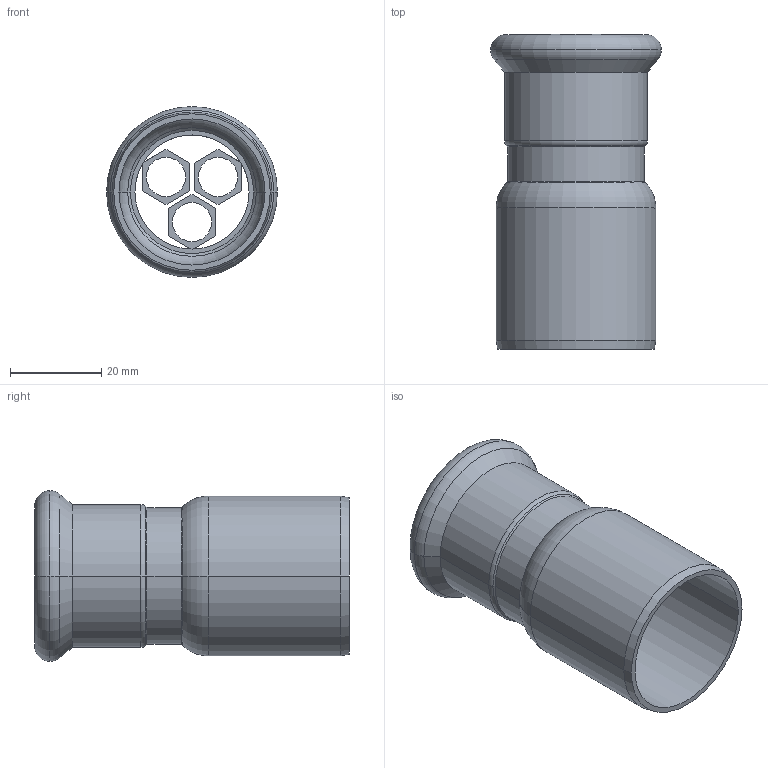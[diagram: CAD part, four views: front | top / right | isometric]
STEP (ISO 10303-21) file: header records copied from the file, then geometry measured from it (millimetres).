
FILE_DESCRIPTION(('OneSpaceDesigner STEP Export'),'2;1');
FILE_NAME('R2707 28x35.stp','2010-06-09T13:21:17',(''),(''),'OneSpace Designer STEP processor for AP214 (Solid Model)','OneSpace Modeling 15.00A 14-Mar-2007 (C) CoCreate Software GmbH','');
FILE_SCHEMA(('AUTOMOTIVE_DESIGN { 1 0 10303 214 1 1 1 1 }'));
Length unit declared in the file: millimetre
Products named in the file (2): R2707_28x35
Assembly tree (1 placements, depth 2):
  R2707_28x35
    R2707_28x35
Bounding box: 37.45 x 69 x 37.45 mm (x, y, z)
Volume: 12755.7 mm3; surface area: 15309.4 mm2
Topology: 1 solids, 1 shells, 77 faces, 182 edges, 113 vertices
Faces by surface type: plane 32, cylinder 25, cone 10, torus 10
Entity records: 1953 total; most frequent: ORIENTED_EDGE 364, CARTESIAN_POINT 309, DIRECTION 291, EDGE_CURVE 182, VERTEX_POINT 113, VECTOR 101, LINE 101, AXIS2_PLACEMENT_3D 95
